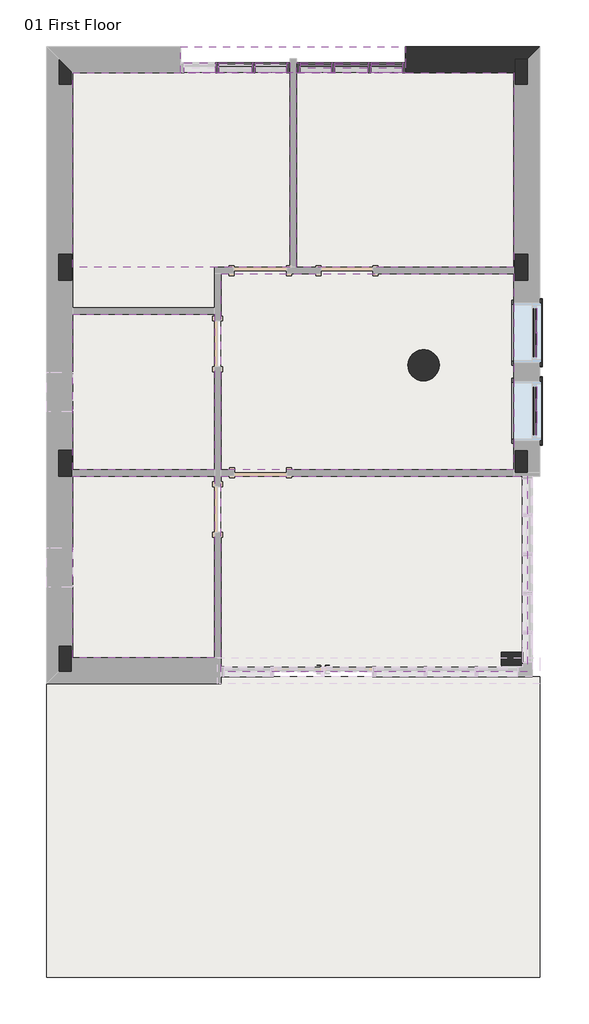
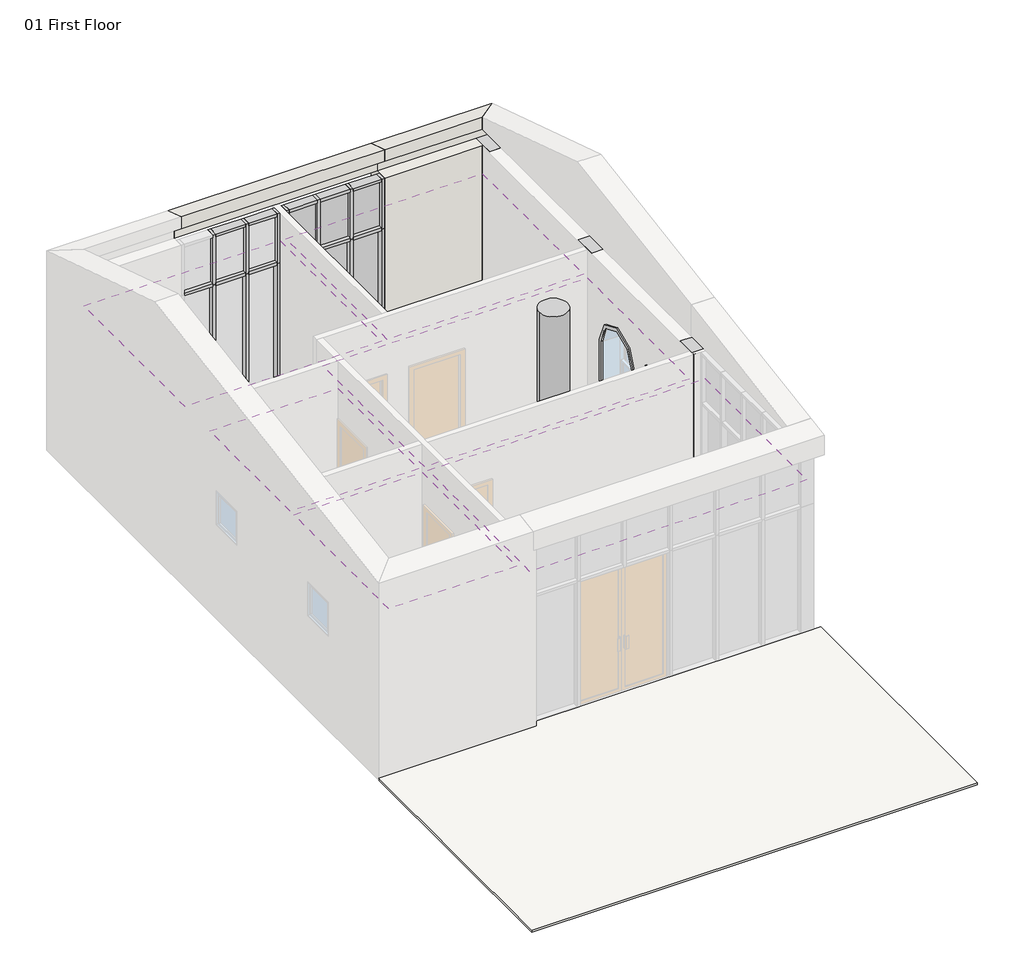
# One storey, part 3 of 3: 30 members, 9 columns, 8 proxies, 6 coverings, 6 plates, 4 slabs, 2 walls.
"""IFC4 building model written with IfcOpenShell, lengths in millimetres."""

from ifc_helpers import new_model, si_unit, point, frame, frame_2d, origin, place, context, project, spatial, polyline, circle_curve, trimmed, segment, composite_curve, outline, extrude, faceted_brep, transform, mapped, element, save
from components import m_muntin_pattern_2x2_m_muntin_pattern_2x2_eda20b33, m_trim_window_exterior_arch_hung_with_sill_d6b66b3f, m_trim_window_interior_arch_hung_picture_frame_427b2bff, rectangular_mullion_50_x_150mm_8753ce05, rectangular_mullion_50_x_150mm_f70f74d1, rectangular_mullion_50_x_150mm_d1e66009, rectangular_mullion_50_x_150mm_6b054e58, rectangular_mullion_50_x_150mm_158f91f9, rectangular_mullion_50_x_150mm_7e1a8c17, rectangular_mullion_50_x_150mm_3ddb3363, rectangular_mullion_50_x_150mm_35d6a770, rectangular_mullion_50_x_150mm_8bb02af5, rectangular_mullion_50_x_150mm_36ef6b42, rectangular_mullion_50_x_150mm_777ece87, rectangular_mullion_50_x_150mm_77e6cf30, system_panel_glazed_dae2c24c, system_panel_glazed_5e1a99da, system_panel_solid_02889cea, system_panel_solid_591e5d25

model = new_model("IFC4")

# Units and contexts
model_context = context("Model", 3, world=origin())
ifc_project = project(units=[si_unit("LENGTHUNIT", "METRE", prefix="MILLI")], contexts=[model_context])

# Site, building, storey
site = spatial("IfcSite", under=ifc_project)
building = spatial("IfcBuilding", under=site)
storey = spatial("IfcBuildingStorey", under=building, Name="01 First Floor", Elevation=3500.0)

# Proxies
placement = place(None, origin())
m_muntin_pattern_2x2_m_muntin_pattern_2x2_shape = m_muntin_pattern_2x2_m_muntin_pattern_2x2_eda20b33(model_context)
element("IfcBuildingElementProxy", 1, Name="M_Muntin Pattern_2x2 : M_Muntin Pattern_2x2", ObjectType="M_Muntin Pattern_2x2 : M_Muntin Pattern_2x2", at=placement, inside=storey, context=model_context, shape_type="MappedRepresentation", body=[
    mapped(m_muntin_pattern_2x2_m_muntin_pattern_2x2_shape, transform((-972.4657999, 936.7898352, 4922.225), x_axis=(0.0, -1.0, 0.0), y_axis=(1.0, 0.0, 0.0), z_axis=(0.0, 0.0, 1.0))),
])
element("IfcBuildingElementProxy", 2, Name="M_Muntin Pattern_2x2 : M_Muntin Pattern_2x2", ObjectType="M_Muntin Pattern_2x2 : M_Muntin Pattern_2x2", at=placement, inside=storey, context=model_context, shape_type="MappedRepresentation", body=[
    mapped(m_muntin_pattern_2x2_m_muntin_pattern_2x2_shape, transform((-1016.9157999, 936.7898352, 4076.2), x_axis=(0.0, -1.0, 0.0), y_axis=(1.0, 0.0, 0.0), z_axis=(0.0, 0.0, 1.0))),
])
element("IfcBuildingElementProxy", 3, Name="M_Muntin Pattern_2x2 : M_Muntin Pattern_2x2", ObjectType="M_Muntin Pattern_2x2 : M_Muntin Pattern_2x2", at=placement, inside=storey, context=model_context, shape_type="MappedRepresentation", body=[
    mapped(m_muntin_pattern_2x2_m_muntin_pattern_2x2_shape, transform((-972.4657999, 2136.7898352, 4922.225), x_axis=(0.0, -1.0, 0.0), y_axis=(1.0, 0.0, 0.0), z_axis=(0.0, 0.0, 1.0))),
])
element("IfcBuildingElementProxy", 4, Name="M_Muntin Pattern_2x2 : M_Muntin Pattern_2x2", ObjectType="M_Muntin Pattern_2x2 : M_Muntin Pattern_2x2", at=placement, inside=storey, context=model_context, shape_type="MappedRepresentation", body=[
    mapped(m_muntin_pattern_2x2_m_muntin_pattern_2x2_shape, transform((-1016.9157999, 2136.7898352, 4076.2), x_axis=(0.0, -1.0, 0.0), y_axis=(1.0, 0.0, 0.0), z_axis=(0.0, 0.0, 1.0))),
])
m_trim_window_exterior_arch_hung_with_sill_shape = m_trim_window_exterior_arch_hung_with_sill_d6b66b3f(model_context)
element("IfcBuildingElementProxy", 5, Name="M_Trim-Window-Exterior-Arch-Hung : with Sill", ObjectType="M_Trim-Window-Exterior-Arch-Hung : with Sill", at=placement, inside=storey, context=model_context, shape_type="MappedRepresentation", body=[
    mapped(m_trim_window_exterior_arch_hung_with_sill_shape, transform((-937.5407999, 936.7898352, 5800.0), x_axis=(0.0, 1.0, 0.0), y_axis=(0.0, 0.0, 1.0), z_axis=(1.0, 0.0, 0.0))),
])
element("IfcBuildingElementProxy", 6, Name="M_Trim-Window-Exterior-Arch-Hung : with Sill", ObjectType="M_Trim-Window-Exterior-Arch-Hung : with Sill", at=placement, inside=storey, context=model_context, shape_type="MappedRepresentation", body=[
    mapped(m_trim_window_exterior_arch_hung_with_sill_shape, transform((-937.5407999, 2136.7898352, 5800.0), x_axis=(0.0, 1.0, 0.0), y_axis=(0.0, 0.0, 1.0), z_axis=(1.0, 0.0, 0.0))),
])
m_trim_window_interior_arch_hung_picture_frame_shape = m_trim_window_interior_arch_hung_picture_frame_427b2bff(model_context)
element("IfcBuildingElementProxy", 7, Name="M_Trim-Window-Interior-Arch-Hung : Picture Frame", ObjectType="M_Trim-Window-Interior-Arch-Hung : Picture Frame", at=placement, inside=storey, context=model_context, shape_type="MappedRepresentation", body=[
    mapped(m_trim_window_interior_arch_hung_picture_frame_shape, transform((-1335.5407999, 936.7898352, 5800.0), x_axis=(0.0, -1.0, 0.0), y_axis=(0.0, 0.0, 1.0), z_axis=(-1.0, 0.0, 0.0))),
])
element("IfcBuildingElementProxy", 8, Name="M_Trim-Window-Interior-Arch-Hung : Picture Frame", ObjectType="M_Trim-Window-Interior-Arch-Hung : Picture Frame", at=placement, inside=storey, context=model_context, shape_type="MappedRepresentation", body=[
    mapped(m_trim_window_interior_arch_hung_picture_frame_shape, transform((-1335.5407999, 2136.7898352, 5800.0), x_axis=(0.0, -1.0, 0.0), y_axis=(0.0, 0.0, 1.0), z_axis=(-1.0, 0.0, 0.0))),
])

# Columns
element("IfcColumn", 9, ObjectType="M_Concrete-Rectangular-Column : 200 x 325mm", at=placement, inside=storey, context=model_context, shape_type="SweptSolid", body=[
    extrude(outline(polyline([(-1527.5407999, -2762.7101648), (-1202.5407999, -2762.7101648), (-1202.5407999, -2962.7101648), (-1527.5407999, -2962.7101648), (-1527.5407999, -2762.7101648)])), frame((0.0, 0.0, 3500.0), z_axis=(0.0, 0.0, 1.0), x_axis=(1.0, 0.0, 0.0)), (0.0, 0.0, 1.0), 3200.0),
])
element("IfcColumn", 10, ObjectType="M_Concrete-Rectangular-Column : 200 x 400mm", at=placement, inside=storey, context=model_context, shape_type="Brep", body=[
    faceted_brep([(-8122.5407999, 6337.2898352, 3500.0), (-8122.5407999, 6137.2898352, 3500.0), (-8122.5407999, 5937.2898352, 3500.0), (-8322.5407999, 5937.2898352, 3500.0), (-8322.5407999, 6337.2898352, 3500.0), (-8122.5407999, 6337.2898352, 6700.0), (-8122.5407999, 6137.2898352, 6700.0), (-8122.5407999, 5937.2898352, 6700.0), (-8322.5407999, 5937.2898352, 6700.0), (-8322.5407999, 6337.2898352, 6700.0)], [[[0, 1, 2, 3, 4]], [[2, 1, 0, 5, 6, 7]], [[3, 2, 7, 8]], [[4, 3, 8, 9]], [[0, 4, 9, 5]], [[7, 6, 5, 9, 8]]]),
])
element("IfcColumn", 11, ObjectType="M_Concrete-Rectangular-Column : 200 x 400mm", at=placement, inside=storey, context=model_context, shape_type="SweptSolid", body=[
    extrude(outline(polyline([(-8122.5407999, 3337.2898352), (-8122.5407999, 2937.2898352), (-8322.5407999, 2937.2898352), (-8322.5407999, 3337.2898352), (-8122.5407999, 3337.2898352)])), frame((0.0, 0.0, 3500.0), z_axis=(0.0, 0.0, 1.0), x_axis=(1.0, 0.0, 0.0)), (0.0, 0.0, 1.0), 3200.0),
])
element("IfcColumn", 12, ObjectType="M_Concrete-Rectangular-Column : 200 x 400mm", at=placement, inside=storey, context=model_context, shape_type="SweptSolid", body=[
    extrude(outline(polyline([(-8122.5407999, 337.2898352), (-8122.5407999, -62.7101648), (-8322.5407999, -62.7101648), (-8322.5407999, 337.2898352), (-8122.5407999, 337.2898352)])), frame((0.0, 0.0, 3500.0), z_axis=(0.0, 0.0, 1.0), x_axis=(1.0, 0.0, 0.0)), (0.0, 0.0, 1.0), 3200.0),
])
element("IfcColumn", 13, ObjectType="M_Concrete-Rectangular-Column : 200 x 400mm", at=placement, inside=storey, context=model_context, shape_type="Brep", body=[
    faceted_brep([(-8122.5407999, -2662.7101648, 3500.0), (-8122.5407999, -2862.7101648, 3500.0), (-8122.5407999, -3062.7101648, 3500.0), (-8322.5407999, -3062.7101648, 3500.0), (-8322.5407999, -2662.7101648, 3500.0), (-8122.5407999, -2662.7101648, 6700.0), (-8122.5407999, -2862.7101648, 6700.0), (-8122.5407999, -3062.7101648, 6700.0), (-8322.5407999, -3062.7101648, 6700.0), (-8322.5407999, -2662.7101648, 6700.0)], [[[0, 1, 2, 3, 4]], [[2, 1, 0, 5, 6, 7]], [[3, 2, 7, 8]], [[4, 3, 8, 9]], [[0, 4, 9, 5]], [[7, 6, 5, 9, 8]]]),
])
element("IfcColumn", 14, ObjectType="M_Concrete-Rectangular-Column : 200 x 400mm", at=placement, inside=storey, context=model_context, shape_type="Brep", body=[
    faceted_brep([(-1122.5407999, 337.2898352, 3500.0), (-1122.5407999, -12.7101648, 3500.0), (-1122.5407999, -62.7101648, 3500.0), (-1322.5407999, -62.7101648, 3500.0), (-1322.5407999, -12.7101648, 3500.0), (-1322.5407999, 337.2898352, 3500.0), (-1122.5407999, 337.2898352, 6700.0), (-1122.5407999, -62.7101648, 6700.0), (-1322.5407999, -62.7101648, 6700.0), (-1322.5407999, -12.7101648, 6700.0), (-1322.5407999, 337.2898352, 6700.0)], [[[0, 1, 2, 3, 4, 5]], [[2, 1, 0, 6, 7]], [[3, 2, 7, 8]], [[5, 4, 3, 8, 9, 10]], [[0, 5, 10, 6]], [[7, 6, 10, 9, 8]]]),
])
element("IfcColumn", 15, ObjectType="M_Concrete-Rectangular-Column : 200 x 400mm", at=placement, inside=storey, context=model_context, shape_type="Brep", body=[
    faceted_brep([(-1122.5407999, 6337.2898352, 3500.0), (-1122.5407999, 5937.2898352, 3500.0), (-1322.5407999, 5937.2898352, 3500.0), (-1322.5407999, 6137.2898352, 3500.0), (-1322.5407999, 6337.2898352, 3500.0), (-1122.5407999, 6337.2898352, 6700.0), (-1122.5407999, 5937.2898352, 6700.0), (-1322.5407999, 5937.2898352, 6700.0), (-1322.5407999, 6137.2898352, 6700.0), (-1322.5407999, 6337.2898352, 6700.0)], [[[0, 1, 2, 3, 4]], [[1, 0, 5, 6]], [[2, 1, 6, 7]], [[4, 3, 2, 7, 8, 9]], [[0, 4, 9, 5]], [[6, 5, 9, 8, 7]]]),
])
element("IfcColumn", 16, ObjectType="M_Concrete-Rectangular-Column : 200 x 400mm", at=placement, inside=storey, context=model_context, shape_type="SweptSolid", body=[
    extrude(outline(polyline([(-1122.5407999, 3337.2898352), (-1122.5407999, 2937.2898352), (-1322.5407999, 2937.2898352), (-1322.5407999, 3337.2898352), (-1122.5407999, 3337.2898352)])), frame((0.0, 0.0, 3500.0), z_axis=(0.0, 0.0, 1.0), x_axis=(1.0, 0.0, 0.0)), (0.0, 0.0, 1.0), 3200.0),
])
element("IfcColumn", 17, ObjectType="M_Concrete-Round-Column : 480mm", at=placement, inside=storey, context=model_context, shape_type="SweptSolid", body=[
    extrude(outline(composite_curve([segment(trimmed(circle_curve(frame_2d((-2722.5407999, 1637.2898352)), 240.0), [point((-2962.5407999, 1637.2898352))], [point((-2482.5407999, 1637.2898352))], False, "CARTESIAN"), True, "CONTINUOUS"), segment(trimmed(circle_curve(frame_2d((-2722.5407999, 1637.2898352)), 240.0), [point((-2482.5407999, 1637.2898352))], [point((-2962.5407999, 1637.2898352))], False, "CARTESIAN"), True, "CONTINUOUS")], self_intersect=False)), frame((0.0, 0.0, 3500.0), z_axis=(0.0, 0.0, 1.0), x_axis=(1.0, 0.0, 0.0)), (0.0, 0.0, 1.0), 3500.0),
])

# Coverings
element("IfcCovering", 18, ObjectType="600 x 600mm Grid", at=placement, inside=storey, context=model_context, shape_type="SweptSolid", body=[
    extrude(outline(polyline([(-1127.5407999, -62.7101648), (-1127.5407999, -3062.7101648), (-5832.5407999, -3062.7101648), (-5832.5407999, -62.7101648), (-1127.5407999, -62.7101648)])), frame((0.0, 0.0, 6200.0), z_axis=(0.0, 0.0, 1.0), x_axis=(1.0, 0.0, 0.0)), (0.0, 0.0, 1.0), 52.0),
])
element("IfcCovering", 19, ObjectType="600 x 600mm Grid", at=placement, inside=storey, context=model_context, shape_type="SweptSolid", body=[
    extrude(outline(polyline([(-5832.5407999, 3037.2898352), (-1335.5407999, 3037.6532062), (-1335.5407999, 37.2898352), (-5832.5407999, 37.2898352), (-5832.5407999, 3037.2898352)]), holes=[composite_curve([segment(polyline([(-3762.5550463, 1637.3625525), (-2962.1657331, 1637.3625525)]), True, "CONTINUOUS"), segment(trimmed(circle_curve(frame_2d((-2722.147977, 1637.3625525)), 240.0177561), [point((-2962.1657331, 1637.3625525))], [point((-2722.147977, 1397.3447964))], False, "CARTESIAN"), True, "CONTINUOUS"), segment(polyline([(-2722.147977, 1397.3447964), (-2709.6572376, 597.4130295)]), True, "CONTINUOUS"), segment(trimmed(circle_curve(frame_2d((-2722.5259059, 1637.3625525)), 1040.0291404), [point((-2709.6572376, 597.4130295))], [point((-3762.5550463, 1637.3625525))], True, "CARTESIAN"), True, "CONTINUOUS")], self_intersect=False)]), frame((0.0, 0.0, 6200.0), z_axis=(0.0, 0.0, 1.0), x_axis=(1.0, 0.0, 0.0)), (0.0, 0.0, 1.0), 52.0),
])
element("IfcCovering", 20, ObjectType="600 x 600mm Grid", at=placement, inside=storey, context=model_context, shape_type="SweptSolid", body=[
    extrude(outline(polyline([(-2997.5407999, 6124.2898352), (-1335.5407999, 6124.2898352), (-1335.5407999, 3137.6532065), (-4672.5407999, 3137.383567), (-4672.5407999, 6124.2898352), (-2997.5407999, 6124.2898352)])), frame((0.0, 0.0, 6200.0), z_axis=(0.0, 0.0, 1.0), x_axis=(1.0, 0.0, 0.0)), (0.0, 0.0, 1.0), 52.0),
])
element("IfcCovering", 21, ObjectType="600 x 600mm Grid", at=placement, inside=storey, context=model_context, shape_type="SweptSolid", body=[
    extrude(outline(polyline([(-4772.5407999, 6124.2898352), (-4772.5407999, 3137.3754867), (-8109.5407999, 3137.3754867), (-8109.5407999, 6124.2898352), (-4772.5407999, 6124.2898352)])), frame((0.0, 0.0, 6200.0), z_axis=(0.0, 0.0, 1.0), x_axis=(1.0, 0.0, 0.0)), (0.0, 0.0, 1.0), 52.0),
])
element("IfcCovering", 22, ObjectType="600 x 600mm Grid", at=placement, inside=storey, context=model_context, shape_type="SweptSolid", body=[
    extrude(outline(polyline([(-5932.5407999, 37.2898352), (-8109.5407999, 37.2898352), (-8109.5407999, 2415.8732706), (-5932.5407999, 2415.8732706), (-5932.5407999, 37.2898352)])), frame((0.0, 0.0, 6200.0), z_axis=(0.0, 0.0, 1.0), x_axis=(1.0, 0.0, 0.0)), (0.0, 0.0, 1.0), 52.0),
])
element("IfcCovering", 23, ObjectType="600 x 600mm Grid", at=placement, inside=storey, context=model_context, shape_type="SweptSolid", body=[
    extrude(outline(polyline([(-5932.5407999, -2849.7101648), (-8109.5407999, -2849.7101648), (-8109.5407999, -62.7101648), (-5932.5407999, -62.7101648), (-5932.5407999, -2849.7101648)])), frame((0.0, 0.0, 6200.0), z_axis=(0.0, 0.0, 1.0), x_axis=(1.0, 0.0, 0.0)), (0.0, 0.0, 1.0), 52.0),
])

# Members
rectangular_mullion_50_x_150mm_shape = rectangular_mullion_50_x_150mm_8753ce05(model_context)
element("IfcMember", 24, ObjectType="Rectangular Mullion : 50 x 150mm", at=placement, inside=storey, context=model_context, shape_type="MappedRepresentation", body=[
    mapped(rectangular_mullion_50_x_150mm_shape, transform((-4772.5407999, 6199.2898352, 3500.0), x_axis=(1.0, 0.0, 0.0), y_axis=(0.0, -1.0, 0.0), z_axis=(0.0, 0.0, -1.0))),
])
element("IfcMember", 25, ObjectType="Rectangular Mullion : 50 x 150mm", at=placement, inside=storey, context=model_context, shape_type="MappedRepresentation", body=[
    mapped(rectangular_mullion_50_x_150mm_shape, transform((-2997.5407999, 6199.2898352, 3500.0), x_axis=(1.0, 0.0, 0.0), y_axis=(0.0, -1.0, 0.0), z_axis=(0.0, 0.0, -1.0))),
])
element("IfcMember", 26, ObjectType="Rectangular Mullion : 50 x 150mm", at=placement, inside=storey, context=model_context, shape_type="MappedRepresentation", body=[
    mapped(rectangular_mullion_50_x_150mm_shape, transform((-4668.7907999, 6199.2898352, 5800.0), x_axis=(-1.0, 0.0, 0.0), y_axis=(0.0, -1.0, 0.0), z_axis=(0.0, 0.0, 1.0))),
])
rectangular_mullion_50_x_150mm_2_shape = rectangular_mullion_50_x_150mm_f70f74d1(model_context)
element("IfcMember", 27, ObjectType="Rectangular Mullion : 50 x 150mm", at=placement, inside=storey, context=model_context, shape_type="MappedRepresentation", body=[
    mapped(rectangular_mullion_50_x_150mm_2_shape, transform((-5889.2074665, 6199.2898352, 3500.0), x_axis=(1.0, 0.0, 0.0), y_axis=(0.0, -1.0, 0.0), z_axis=(0.0, 0.0, -1.0))),
])
element("IfcMember", 28, ObjectType="Rectangular Mullion : 50 x 150mm", at=placement, inside=storey, context=model_context, shape_type="MappedRepresentation", body=[
    mapped(rectangular_mullion_50_x_150mm_2_shape, transform((-5330.8741334, 6199.2898352, 3500.0), x_axis=(1.0, 0.0, 0.0), y_axis=(0.0, -1.0, 0.0), z_axis=(0.0, 0.0, -1.0))),
])
element("IfcMember", 29, ObjectType="Rectangular Mullion : 50 x 150mm", at=placement, inside=storey, context=model_context, shape_type="MappedRepresentation", body=[
    mapped(rectangular_mullion_50_x_150mm_2_shape, transform((-4111.7074665, 6199.2898352, 3500.0), x_axis=(1.0, 0.0, 0.0), y_axis=(0.0, -1.0, 0.0), z_axis=(0.0, 0.0, -1.0))),
])
element("IfcMember", 30, ObjectType="Rectangular Mullion : 50 x 150mm", at=placement, inside=storey, context=model_context, shape_type="MappedRepresentation", body=[
    mapped(rectangular_mullion_50_x_150mm_2_shape, transform((-3554.6241334, 6199.2898352, 3500.0), x_axis=(1.0, 0.0, 0.0), y_axis=(0.0, -1.0, 0.0), z_axis=(0.0, 0.0, -1.0))),
])
rectangular_mullion_50_x_150mm_3_shape = rectangular_mullion_50_x_150mm_d1e66009(model_context)
element("IfcMember", 31, ObjectType="Rectangular Mullion : 50 x 150mm", at=placement, inside=storey, context=model_context, shape_type="MappedRepresentation", body=[
    mapped(rectangular_mullion_50_x_150mm_3_shape, transform((-4822.5407999, 6199.2898352, 6700.0), x_axis=(0.0, 0.0, 1.0), y_axis=(0.0, -1.0, 0.0), z_axis=(1.0, 0.0, 0.0))),
])
rectangular_mullion_50_x_150mm_4_shape = rectangular_mullion_50_x_150mm_6b054e58(model_context)
element("IfcMember", 32, ObjectType="Rectangular Mullion : 50 x 150mm", at=placement, inside=storey, context=model_context, shape_type="MappedRepresentation", body=[
    mapped(rectangular_mullion_50_x_150mm_4_shape, transform((-5355.8741334, 6199.2898352, 6700.0), x_axis=(0.0, 0.0, 1.0), y_axis=(0.0, -1.0, 0.0), z_axis=(1.0, 0.0, 0.0))),
])
element("IfcMember", 33, ObjectType="Rectangular Mullion : 50 x 150mm", at=placement, inside=storey, context=model_context, shape_type="MappedRepresentation", body=[
    mapped(rectangular_mullion_50_x_150mm_3_shape, transform((-5305.8741334, 6199.2898352, 3500.0), x_axis=(0.0, 0.0, -1.0), y_axis=(0.0, -1.0, 0.0), z_axis=(-1.0, 0.0, 0.0))),
])
element("IfcMember", 34, ObjectType="Rectangular Mullion : 50 x 150mm", at=placement, inside=storey, context=model_context, shape_type="MappedRepresentation", body=[
    mapped(rectangular_mullion_50_x_150mm_4_shape, transform((-5864.2074665, 6199.2898352, 3500.0), x_axis=(0.0, 0.0, -1.0), y_axis=(0.0, -1.0, 0.0), z_axis=(-1.0, 0.0, 0.0))),
])
rectangular_mullion_50_x_150mm_5_shape = rectangular_mullion_50_x_150mm_158f91f9(model_context)
element("IfcMember", 35, ObjectType="Rectangular Mullion : 50 x 150mm", at=placement, inside=storey, context=model_context, shape_type="MappedRepresentation", body=[
    mapped(rectangular_mullion_50_x_150mm_5_shape, transform((-5914.2074665, 6199.2898352, 5800.0), x_axis=(0.0, 0.0, 1.0), y_axis=(0.0, -1.0, 0.0), z_axis=(1.0, 0.0, 0.0))),
])
element("IfcMember", 36, ObjectType="Rectangular Mullion : 50 x 150mm", at=placement, inside=storey, context=model_context, shape_type="MappedRepresentation", body=[
    mapped(rectangular_mullion_50_x_150mm_5_shape, transform((-4822.5407999, 6199.2898352, 5800.0), x_axis=(0.0, 0.0, 1.0), y_axis=(0.0, -1.0, 0.0), z_axis=(1.0, 0.0, 0.0))),
])
rectangular_mullion_50_x_150mm_6_shape = rectangular_mullion_50_x_150mm_7e1a8c17(model_context)
element("IfcMember", 37, ObjectType="Rectangular Mullion : 50 x 150mm", at=placement, inside=storey, context=model_context, shape_type="MappedRepresentation", body=[
    mapped(rectangular_mullion_50_x_150mm_6_shape, transform((-5355.8741334, 6199.2898352, 5800.0), x_axis=(0.0, 0.0, 1.0), y_axis=(0.0, -1.0, 0.0), z_axis=(1.0, 0.0, 0.0))),
])
rectangular_mullion_50_x_150mm_7_shape = rectangular_mullion_50_x_150mm_3ddb3363(model_context)
element("IfcMember", 38, ObjectType="Rectangular Mullion : 50 x 150mm", at=placement, inside=storey, context=model_context, shape_type="MappedRepresentation", body=[
    mapped(rectangular_mullion_50_x_150mm_7_shape, transform((-5889.2074665, 6199.2898352, 5800.0), x_axis=(1.0, 0.0, 0.0), y_axis=(0.0, -1.0, 0.0), z_axis=(0.0, 0.0, -1.0))),
])
element("IfcMember", 39, ObjectType="Rectangular Mullion : 50 x 150mm", at=placement, inside=storey, context=model_context, shape_type="MappedRepresentation", body=[
    mapped(rectangular_mullion_50_x_150mm_7_shape, transform((-5330.8741334, 6199.2898352, 5800.0), x_axis=(1.0, 0.0, 0.0), y_axis=(0.0, -1.0, 0.0), z_axis=(0.0, 0.0, -1.0))),
])
element("IfcMember", 40, ObjectType="Rectangular Mullion : 50 x 150mm", at=placement, inside=storey, context=model_context, shape_type="MappedRepresentation", body=[
    mapped(rectangular_mullion_50_x_150mm_7_shape, transform((-4111.7074665, 6199.2898352, 5800.0), x_axis=(1.0, 0.0, 0.0), y_axis=(0.0, -1.0, 0.0), z_axis=(0.0, 0.0, -1.0))),
])
element("IfcMember", 41, ObjectType="Rectangular Mullion : 50 x 150mm", at=placement, inside=storey, context=model_context, shape_type="MappedRepresentation", body=[
    mapped(rectangular_mullion_50_x_150mm_7_shape, transform((-3554.6241334, 6199.2898352, 5800.0), x_axis=(1.0, 0.0, 0.0), y_axis=(0.0, -1.0, 0.0), z_axis=(0.0, 0.0, -1.0))),
])
rectangular_mullion_50_x_150mm_8_shape = rectangular_mullion_50_x_150mm_35d6a770(model_context)
element("IfcMember", 42, ObjectType="Rectangular Mullion : 50 x 150mm", at=placement, inside=storey, context=model_context, shape_type="MappedRepresentation", body=[
    mapped(rectangular_mullion_50_x_150mm_8_shape, transform((-4772.5407999, 6199.2898352, 5800.0), x_axis=(1.0, 0.0, 0.0), y_axis=(0.0, -1.0, 0.0), z_axis=(0.0, 0.0, -1.0))),
])
element("IfcMember", 43, ObjectType="Rectangular Mullion : 50 x 150mm", at=placement, inside=storey, context=model_context, shape_type="MappedRepresentation", body=[
    mapped(rectangular_mullion_50_x_150mm_8_shape, transform((-2997.5407999, 6199.2898352, 5800.0), x_axis=(1.0, 0.0, 0.0), y_axis=(0.0, -1.0, 0.0), z_axis=(0.0, 0.0, -1.0))),
])
element("IfcMember", 44, ObjectType="Rectangular Mullion : 50 x 150mm", at=placement, inside=storey, context=model_context, shape_type="MappedRepresentation", body=[
    mapped(rectangular_mullion_50_x_150mm_8_shape, transform((-4668.7907999, 6199.2898352, 6700.0), x_axis=(-1.0, 0.0, 0.0), y_axis=(0.0, -1.0, 0.0), z_axis=(0.0, 0.0, 1.0))),
])
rectangular_mullion_50_x_150mm_9_shape = rectangular_mullion_50_x_150mm_8bb02af5(model_context)
element("IfcMember", 45, ObjectType="Rectangular Mullion : 50 x 150mm", at=placement, inside=storey, context=model_context, shape_type="MappedRepresentation", body=[
    mapped(rectangular_mullion_50_x_150mm_9_shape, transform((-3047.5407999, 6199.2898352, 6700.0), x_axis=(0.0, 0.0, 1.0), y_axis=(0.0, -1.0, 0.0), z_axis=(1.0, 0.0, 0.0))),
])
element("IfcMember", 46, ObjectType="Rectangular Mullion : 50 x 150mm", at=placement, inside=storey, context=model_context, shape_type="MappedRepresentation", body=[
    mapped(rectangular_mullion_50_x_150mm_9_shape, transform((-4136.7074665, 6199.2898352, 6700.0), x_axis=(0.0, 0.0, 1.0), y_axis=(0.0, -1.0, 0.0), z_axis=(1.0, 0.0, 0.0))),
])
rectangular_mullion_50_x_150mm_10_shape = rectangular_mullion_50_x_150mm_36ef6b42(model_context)
element("IfcMember", 47, ObjectType="Rectangular Mullion : 50 x 150mm", at=placement, inside=storey, context=model_context, shape_type="MappedRepresentation", body=[
    mapped(rectangular_mullion_50_x_150mm_10_shape, transform((-3579.6241334, 6199.2898352, 6700.0), x_axis=(0.0, 0.0, 1.0), y_axis=(0.0, -1.0, 0.0), z_axis=(1.0, 0.0, 0.0))),
])
element("IfcMember", 48, ObjectType="Rectangular Mullion : 50 x 150mm", at=placement, inside=storey, context=model_context, shape_type="MappedRepresentation", body=[
    mapped(rectangular_mullion_50_x_150mm_9_shape, transform((-4618.7907999, 6199.2898352, 3500.0), x_axis=(0.0, 0.0, -1.0), y_axis=(0.0, -1.0, 0.0), z_axis=(-1.0, 0.0, 0.0))),
])
element("IfcMember", 49, ObjectType="Rectangular Mullion : 50 x 150mm", at=placement, inside=storey, context=model_context, shape_type="MappedRepresentation", body=[
    mapped(rectangular_mullion_50_x_150mm_9_shape, transform((-3529.6241334, 6199.2898352, 3500.0), x_axis=(0.0, 0.0, -1.0), y_axis=(0.0, -1.0, 0.0), z_axis=(-1.0, 0.0, 0.0))),
])
element("IfcMember", 50, ObjectType="Rectangular Mullion : 50 x 150mm", at=placement, inside=storey, context=model_context, shape_type="MappedRepresentation", body=[
    mapped(rectangular_mullion_50_x_150mm_10_shape, transform((-4086.7074665, 6199.2898352, 3500.0), x_axis=(0.0, 0.0, -1.0), y_axis=(0.0, -1.0, 0.0), z_axis=(-1.0, 0.0, 0.0))),
])
rectangular_mullion_50_x_150mm_11_shape = rectangular_mullion_50_x_150mm_777ece87(model_context)
element("IfcMember", 51, ObjectType="Rectangular Mullion : 50 x 150mm", at=placement, inside=storey, context=model_context, shape_type="MappedRepresentation", body=[
    mapped(rectangular_mullion_50_x_150mm_11_shape, transform((-4136.7074665, 6199.2898352, 5800.0), x_axis=(0.0, 0.0, 1.0), y_axis=(0.0, -1.0, 0.0), z_axis=(1.0, 0.0, 0.0))),
])
element("IfcMember", 52, ObjectType="Rectangular Mullion : 50 x 150mm", at=placement, inside=storey, context=model_context, shape_type="MappedRepresentation", body=[
    mapped(rectangular_mullion_50_x_150mm_11_shape, transform((-3047.5407999, 6199.2898352, 5800.0), x_axis=(0.0, 0.0, 1.0), y_axis=(0.0, -1.0, 0.0), z_axis=(1.0, 0.0, 0.0))),
])
rectangular_mullion_50_x_150mm_12_shape = rectangular_mullion_50_x_150mm_77e6cf30(model_context)
element("IfcMember", 53, ObjectType="Rectangular Mullion : 50 x 150mm", at=placement, inside=storey, context=model_context, shape_type="MappedRepresentation", body=[
    mapped(rectangular_mullion_50_x_150mm_12_shape, transform((-3579.6241334, 6199.2898352, 5800.0), x_axis=(0.0, 0.0, 1.0), y_axis=(0.0, -1.0, 0.0), z_axis=(1.0, 0.0, 0.0))),
])

# Plates
system_panel_glazed_shape = system_panel_glazed_dae2c24c(model_context)
element("IfcPlate", 54, ObjectType="System Panel : Glazed", at=placement, inside=storey, context=model_context, shape_type="MappedRepresentation", body=[
    mapped(system_panel_glazed_shape, transform((-4377.7491332, 6199.2898352, 3550.0), x_axis=(1.0, 0.0, 0.0), y_axis=(0.0, 1.0, 0.0), z_axis=(0.0, 0.0, 1.0))),
])
element("IfcPlate", 55, ObjectType="System Panel : Glazed", at=placement, inside=storey, context=model_context, shape_type="MappedRepresentation", body=[
    mapped(system_panel_glazed_shape, transform((-3288.5824667, 6199.2898352, 3550.0), x_axis=(1.0, 0.0, 0.0), y_axis=(0.0, 1.0, 0.0), z_axis=(0.0, 0.0, 1.0))),
])
system_panel_glazed_2_shape = system_panel_glazed_5e1a99da(model_context)
element("IfcPlate", 56, ObjectType="System Panel : Glazed", at=placement, inside=storey, context=model_context, shape_type="MappedRepresentation", body=[
    mapped(system_panel_glazed_2_shape, transform((-3833.1657999, 6199.2898352, 3550.0), x_axis=(1.0, 0.0, 0.0), y_axis=(0.0, 1.0, 0.0), z_axis=(0.0, 0.0, 1.0))),
])
system_panel_solid_shape = system_panel_solid_02889cea(model_context)
element("IfcPlate", 57, ObjectType="System Panel : Solid", at=placement, inside=storey, context=model_context, shape_type="MappedRepresentation", body=[
    mapped(system_panel_solid_shape, transform((-4377.7491332, 6199.2898352, 5825.0), x_axis=(1.0, 0.0, 0.0), y_axis=(0.0, 1.0, 0.0), z_axis=(0.0, 0.0, 1.0))),
])
element("IfcPlate", 58, ObjectType="System Panel : Solid", at=placement, inside=storey, context=model_context, shape_type="MappedRepresentation", body=[
    mapped(system_panel_solid_shape, transform((-3288.5824667, 6199.2898352, 5825.0), x_axis=(1.0, 0.0, 0.0), y_axis=(0.0, 1.0, 0.0), z_axis=(0.0, 0.0, 1.0))),
])
system_panel_solid_2_shape = system_panel_solid_591e5d25(model_context)
element("IfcPlate", 59, ObjectType="System Panel : Solid", at=placement, inside=storey, context=model_context, shape_type="MappedRepresentation", body=[
    mapped(system_panel_solid_2_shape, transform((-3833.1657999, 6199.2898352, 5825.0), x_axis=(1.0, 0.0, 0.0), y_axis=(0.0, 1.0, 0.0), z_axis=(0.0, 0.0, 1.0))),
])

# Slabs
element("IfcSlab", 60, ObjectType="DECK FLOOR TILES 40mm", at=placement, inside=storey, context=model_context, shape_type="SweptSolid", body=[
    extrude(outline(polyline([(-5832.5407999, -3247.7101648), (-5832.5407999, -3137.7101648), (-937.5407999, -3137.7101648), (-937.5407999, -7747.7101648), (-8507.5407999, -7747.7101648), (-8507.5407999, -3247.7101648), (-5832.5407999, -3247.7101648)])), frame((0.0, 0.0, 3500.0), z_axis=(0.0, 0.0, 1.0), x_axis=(1.0, 0.0, 0.0)), (0.0, 0.0, 1.0), 40.0),
])
element("IfcSlab", 61, ObjectType="Floor Mosaic + Parquet 103mm", at=placement, inside=storey, context=model_context, shape_type="SweptSolid", body=[
    extrude(outline(polyline([(-8109.5407999, 6124.2898352), (-4772.5407999, 6124.2898352), (-4772.5407999, 3137.3710698), (-4827.2040508, 3137.3710698), (-4827.1959705, 3037.3710701), (-4298.0996436, 3037.4138226), (-4298.1077239, 3137.4138223), (-4672.5407999, 3137.383567), (-4668.7907999, 6124.2898352), (-1335.5407999, 6124.2898352), (-1335.5407999, 3137.6532065), (-3496.4162705, 3137.4786014), (-3498.0996603, 3037.6532062), (-1335.5407999, 3037.6532062), (-1335.5407999, 37.2898352), (-4822.5407999, 37.2898352), (-4822.5407999, -67.7101648), (-1212.5407999, -67.7101648), (-1212.5407999, -2762.7101648), (-1527.5407999, -2762.7101648), (-1527.5407999, -2987.7101648), (-5832.5407999, -2987.7101648), (-5832.5407999, -62.7101648), (-5622.5407999, -62.7101648), (-5622.5407999, 37.2898352), (-5832.5407999, 37.2898352), (-5832.5407999, 3037.2898352), (-5627.1959679, 3037.3064277), (-5627.2040462, 3137.2817553), (-5932.5407999, 3137.2817553), (-5932.5407999, 2515.8732706), (-8109.5407999, 2515.8732706), (-8109.5407999, 6124.2898352)])), frame((0.0, 0.0, 3500.0), z_axis=(0.0, 0.0, 1.0), x_axis=(1.0, 0.0, 0.0)), (0.0, 0.0, 1.0), 103.0),
])
element("IfcSlab", 62, ObjectType="Floor Mosaic 88mm", at=placement, inside=storey, context=model_context, shape_type="SweptSolid", body=[
    extrude(outline(polyline([(-5932.5407999, 2415.8732706), (-5932.5407999, 37.2898352), (-8109.5407999, 37.2898352), (-8109.5407999, 2415.8732706), (-5932.5407999, 2415.8732706)])), frame((0.0, 0.0, 3500.0), z_axis=(0.0, 0.0, 1.0), x_axis=(1.0, 0.0, 0.0)), (0.0, 0.0, 1.0), 88.0),
])
element("IfcSlab", 63, ObjectType="Floor Mosaic 88mm", at=placement, inside=storey, context=model_context, shape_type="SweptSolid", body=[
    extrude(outline(polyline([(-8122.5407999, -62.7101648), (-5932.5407999, -62.7101648), (-5932.5407999, -2849.7101648), (-8122.5407999, -2849.7101648), (-8122.5407999, -62.7101648)])), frame((0.0, 0.0, 3500.0), z_axis=(0.0, 0.0, 1.0), x_axis=(1.0, 0.0, 0.0)), (0.0, 0.0, 1.0), 88.0),
])

# Walls
element("IfcWall", 64, ObjectType="Exterior - Brick on CMU", at=placement, inside=storey, context=model_context, shape_type="Brep", body=[
    faceted_brep([(-937.5407999, 6522.2898352, 3500.0), (-1122.5407999, 6522.2898352, 3500.0), (-1300.0407999, 6522.2898352, 3500.0), (-2997.5407999, 6522.2898352, 3500.0), (-2997.5407999, 6522.2898352, 6700.0), (-2997.5407999, 6522.2898352, 7084.4927536), (-937.5407999, 6522.2898352, 7084.4927536), (-2997.5407999, 6124.2898352, 3500.0), (-1335.5407999, 6124.2898352, 3500.0), (-1335.5407999, 6124.2898352, 6700.0), (-2997.5407999, 6124.2898352, 6700.0), (-2997.5407999, 6124.2898352, 7000.0), (-1335.5407999, 6124.2898352, 7000.0), (-1335.5407999, 6124.2898352, 7211.3913043), (-2997.5407999, 6124.2898352, 7211.3913043), (-1122.5407999, 6337.2898352, 3500.0), (-1300.0407999, 6337.2898352, 3500.0), (-1322.5407999, 6337.2898352, 3500.0), (-1322.5407999, 6137.2898352, 3500.0), (-2997.5407999, 6337.2898352, 6700.0), (-2997.5407999, 6337.2898352, 7000.0), (-1322.5407999, 6137.2898352, 7000.0), (-1122.5407999, 6337.2898352, 7000.0), (-1322.5407999, 6137.2898352, 6700.0), (-1322.5407999, 6337.2898352, 6700.0)], [[[0, 1, 2, 3, 4, 5, 6]], [[7, 8, 9, 10]], [[11, 12, 13, 14]], [[3, 2, 1, 0, 15, 16, 17, 18, 8, 7]], [[5, 4, 3, 7, 10, 19, 20, 11, 14]], [[0, 6, 13, 12, 21, 22, 15]], [[9, 8, 18, 23]], [[10, 9, 23, 24, 19]], [[12, 11, 20, 22, 21]], [[20, 19, 24, 17, 16, 15, 22]], [[5, 14, 13, 6]], [[17, 24, 23, 18]]]),
])
element("IfcWall", 65, ObjectType="Exterior - Brick on CMU", at=placement, inside=storey, context=model_context, shape_type="SweptSolid", body=[
    extrude(outline(polyline([(6522.2898352, 7084.4927536), (6522.2898352, 6700.0), (6337.2898352, 6700.0), (6337.2898352, 7000.0), (6124.2898352, 7000.0), (6124.2898352, 7211.3913043), (6522.2898352, 7084.4927536)])), frame((-6447.5407999, 0.0, 0.0), z_axis=(1.0, 0.0, 0.0), x_axis=(0.0, 1.0, 0.0)), (0.0, 0.0, 1.0), 3450.0),
])

save(model, "model.ifc")
